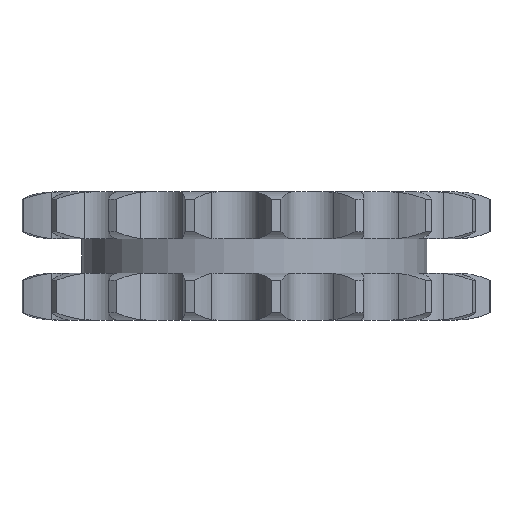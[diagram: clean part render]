
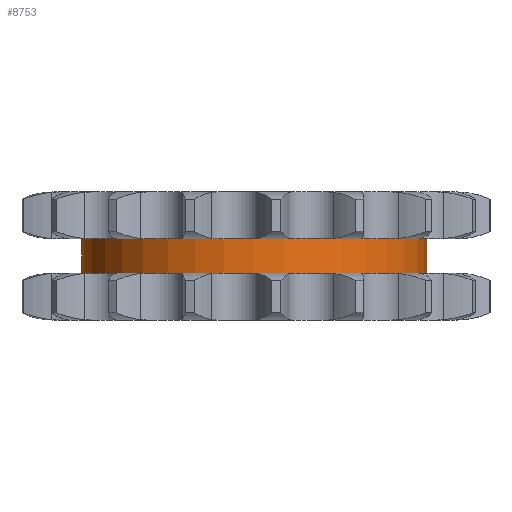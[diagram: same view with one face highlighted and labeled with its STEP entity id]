
A CAD part, left-side view. The second image highlights one B-rep face of the part: STEP entity #8753.
In plain terms, the highlighted cylindrical face has radius 40.837 mm (diameter 81.674 mm), a partial arc.
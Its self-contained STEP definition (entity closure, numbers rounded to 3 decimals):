
#2112=DIRECTION('',(0.,0.,-1.));
#2113=VECTOR('',#2112,8.1);
#2114=CARTESIAN_POINT('',(0.,40.837,4.05));
#2115=LINE('',#2114,#2113);
#2119=CARTESIAN_POINT('',(0.,0.,4.05));
#2120=DIRECTION('',(0.,0.,1.));
#2121=DIRECTION('',(0.,1.,0.));
#2122=AXIS2_PLACEMENT_3D('',#2119,#2120,#2121);
#2127=DIRECTION('',(0.,0.,-1.));
#2128=VECTOR('',#2127,8.1);
#2129=CARTESIAN_POINT('',(0.,-40.837,4.05));
#2130=LINE('',#2129,#2128);
#2134=CARTESIAN_POINT('',(0.,0.,-4.05));
#2135=DIRECTION('',(0.,0.,1.));
#2136=DIRECTION('',(0.,1.,0.));
#2137=AXIS2_PLACEMENT_3D('',#2134,#2135,#2136);
#6105=CARTESIAN_POINT('',(0.,40.837,4.05));
#6106=CARTESIAN_POINT('',(0.,40.837,-4.05));
#6107=VERTEX_POINT('',#6105);
#6108=VERTEX_POINT('',#6106);
#6109=CARTESIAN_POINT('',(0.,-40.837,4.05));
#6110=CARTESIAN_POINT('',(0.,-40.837,-4.05));
#6111=VERTEX_POINT('',#6109);
#6112=VERTEX_POINT('',#6110);
#8741=CARTESIAN_POINT('',(0.,0.,4.455));
#8742=DIRECTION('',(0.,0.,-1.));
#8743=DIRECTION('',(0.,-1.,0.));
#8744=AXIS2_PLACEMENT_3D('',#8741,#8742,#8743);
#8745=CYLINDRICAL_SURFACE('',#8744,40.837);
#8746=ORIENTED_EDGE('',*,*,#8731,.F.);
#8747=ORIENTED_EDGE('',*,*,#8721,.T.);
#8748=ORIENTED_EDGE('',*,*,#8735,.T.);
#8750=ORIENTED_EDGE('',*,*,#8749,.F.);
#8751=EDGE_LOOP('',(#8746,#8747,#8748,#8750));
#8752=FACE_OUTER_BOUND('',#8751,.F.);
#8753=ADVANCED_FACE('',(#8752),#8745,.T.);
#2123=CIRCLE('',#2122,40.837);
#2138=CIRCLE('',#2137,40.837);
#8721=EDGE_CURVE('',#6107,#6111,#2123,.T.);
#8731=EDGE_CURVE('',#6107,#6108,#2115,.T.);
#8735=EDGE_CURVE('',#6111,#6112,#2130,.T.);
#8749=EDGE_CURVE('',#6108,#6112,#2138,.T.);
